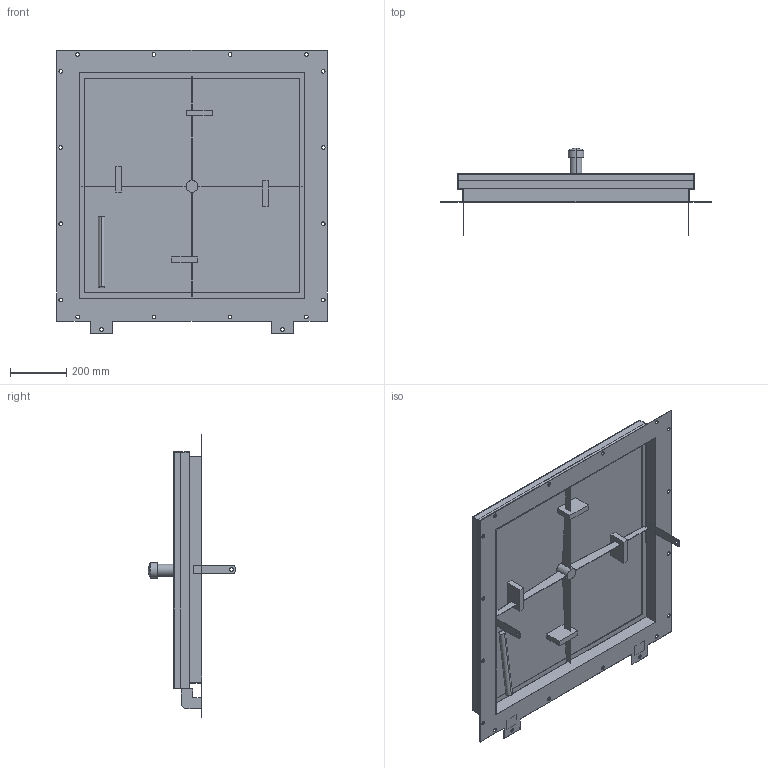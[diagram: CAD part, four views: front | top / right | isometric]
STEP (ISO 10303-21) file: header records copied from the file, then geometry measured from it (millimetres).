
FILE_DESCRIPTION((''),'2;1');
FILE_NAME('52310815','2024-10-17T11:02:41',('wep'),('HUBER SE'),'CREO PARAMETRIC BY PTC INC, 2022162','CREO PARAMETRIC BY PTC INC, 2022162','');
FILE_SCHEMA(('AUTOMOTIVE_DESIGN { 1 0 10303 214 1 1 1 1 }'));
Length unit declared in the file: millimetre
Products named in the file (1): 52310815
Bounding box: 960 x 310 x 1005 mm (x, y, z)
Volume: 5009226.5 mm3; surface area: 4452697.1 mm2
Topology: 2 solids, 3 shells, 194 faces, 500 edges, 329 vertices
Faces by surface type: plane 138, cylinder 54, sphere 2
Entity records: 6491 total; most frequent: CARTESIAN_POINT 1023, DIRECTION 996, ORIENTED_EDGE 996, EDGE_CURVE 498, VECTOR 388, LINE 388, VERTEX_POINT 329, AXIS2_PLACEMENT_3D 304
